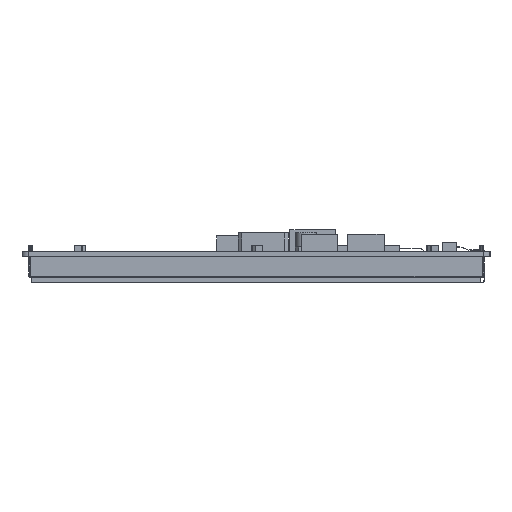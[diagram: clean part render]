
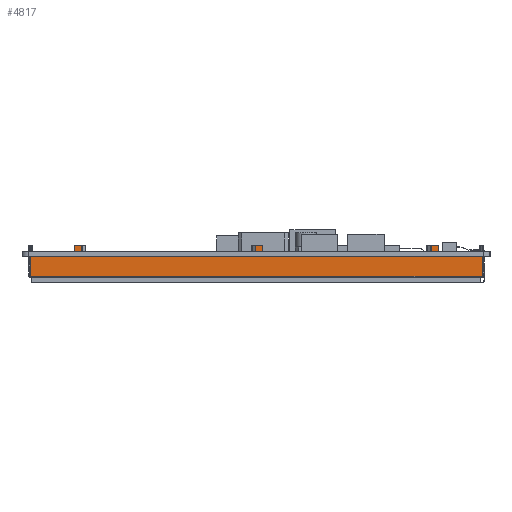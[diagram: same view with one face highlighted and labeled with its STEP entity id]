
A CAD part, left-side view. The second image highlights one B-rep face of the part: STEP entity #4817.
In plain terms, the highlighted planar face has unit normal (-1, 0, 0).
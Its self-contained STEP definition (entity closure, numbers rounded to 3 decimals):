
#4817=ADVANCED_FACE('',(#7985),#6363,.T.);
#6363=PLANE('',#38270);
#7985=FACE_OUTER_BOUND('',#9748,.T.);
#9748=EDGE_LOOP('',(#18132,#18133,#18134,#18135,#18136,#18137,#18138,#18139,
#18140,#18141,#18142,#18143,#18144,#18145,#18146,#18147,#18148,#18149,#18150,
#18151,#18152,#18153));
#18132=ORIENTED_EDGE('',*,*,#27035,.F.);
#18133=ORIENTED_EDGE('',*,*,#27036,.T.);
#18134=ORIENTED_EDGE('',*,*,#27037,.T.);
#18135=ORIENTED_EDGE('',*,*,#27038,.F.);
#18136=ORIENTED_EDGE('',*,*,#27039,.F.);
#18137=ORIENTED_EDGE('',*,*,#27040,.F.);
#18138=ORIENTED_EDGE('',*,*,#27041,.T.);
#18139=ORIENTED_EDGE('',*,*,#27042,.T.);
#18140=ORIENTED_EDGE('',*,*,#27043,.T.);
#18141=ORIENTED_EDGE('',*,*,#27032,.F.);
#18142=ORIENTED_EDGE('',*,*,#27044,.F.);
#18143=ORIENTED_EDGE('',*,*,#27045,.F.);
#18144=ORIENTED_EDGE('',*,*,#27046,.T.);
#18145=ORIENTED_EDGE('',*,*,#27047,.T.);
#18146=ORIENTED_EDGE('',*,*,#27048,.T.);
#18147=ORIENTED_EDGE('',*,*,#27028,.F.);
#18148=ORIENTED_EDGE('',*,*,#27049,.F.);
#18149=ORIENTED_EDGE('',*,*,#27050,.T.);
#18150=ORIENTED_EDGE('',*,*,#27051,.F.);
#18151=ORIENTED_EDGE('',*,*,#27052,.F.);
#18152=ORIENTED_EDGE('',*,*,#27053,.T.);
#18153=ORIENTED_EDGE('',*,*,#27026,.F.);
#22441=VERTEX_POINT('',#55878);
#22443=VERTEX_POINT('',#55882);
#22444=VERTEX_POINT('',#55886);
#22446=VERTEX_POINT('',#55889);
#22448=VERTEX_POINT('',#55895);
#22450=VERTEX_POINT('',#55898);
#22452=VERTEX_POINT('',#55904);
#22453=VERTEX_POINT('',#55906);
#22454=VERTEX_POINT('',#55908);
#22455=VERTEX_POINT('',#55910);
#22456=VERTEX_POINT('',#55912);
#22457=VERTEX_POINT('',#55914);
#22458=VERTEX_POINT('',#55916);
#22459=VERTEX_POINT('',#55918);
#22460=VERTEX_POINT('',#55921);
#22461=VERTEX_POINT('',#55923);
#22462=VERTEX_POINT('',#55925);
#22463=VERTEX_POINT('',#55927);
#22464=VERTEX_POINT('',#55930);
#22465=VERTEX_POINT('',#55932);
#22466=VERTEX_POINT('',#55934);
#22467=VERTEX_POINT('',#55936);
#27026=EDGE_CURVE('',#22443,#22441,#31543,.T.);
#27028=EDGE_CURVE('',#22444,#22446,#31545,.T.);
#27032=EDGE_CURVE('',#22448,#22450,#31549,.T.);
#27035=EDGE_CURVE('',#22452,#22443,#31552,.T.);
#27036=EDGE_CURVE('',#22452,#22453,#31553,.T.);
#27037=EDGE_CURVE('',#22453,#22454,#31554,.T.);
#27038=EDGE_CURVE('',#22455,#22454,#31555,.T.);
#27039=EDGE_CURVE('',#22456,#22455,#31556,.T.);
#27040=EDGE_CURVE('',#22457,#22456,#31557,.T.);
#27041=EDGE_CURVE('',#22457,#22458,#31558,.T.);
#27042=EDGE_CURVE('',#22458,#22459,#31559,.T.);
#27043=EDGE_CURVE('',#22459,#22450,#31560,.T.);
#27044=EDGE_CURVE('',#22460,#22448,#31561,.T.);
#27045=EDGE_CURVE('',#22461,#22460,#31562,.T.);
#27046=EDGE_CURVE('',#22461,#22462,#31563,.T.);
#27047=EDGE_CURVE('',#22462,#22463,#31564,.T.);
#27048=EDGE_CURVE('',#22463,#22446,#31565,.T.);
#27049=EDGE_CURVE('',#22464,#22444,#31566,.T.);
#27050=EDGE_CURVE('',#22464,#22465,#31567,.T.);
#27051=EDGE_CURVE('',#22466,#22465,#31568,.T.);
#27052=EDGE_CURVE('',#22467,#22466,#31569,.T.);
#27053=EDGE_CURVE('',#22467,#22441,#31570,.T.);
#31543=LINE('',#55883,#35904);
#31545=LINE('',#55888,#35906);
#31549=LINE('',#55897,#35910);
#31552=LINE('',#55903,#35913);
#31553=LINE('',#55905,#35914);
#31554=LINE('',#55907,#35915);
#31555=LINE('',#55909,#35916);
#31556=LINE('',#55911,#35917);
#31557=LINE('',#55913,#35918);
#31558=LINE('',#55915,#35919);
#31559=LINE('',#55917,#35920);
#31560=LINE('',#55919,#35921);
#31561=LINE('',#55920,#35922);
#31562=LINE('',#55922,#35923);
#31563=LINE('',#55924,#35924);
#31564=LINE('',#55926,#35925);
#31565=LINE('',#55928,#35926);
#31566=LINE('',#55929,#35927);
#31567=LINE('',#55931,#35928);
#31568=LINE('',#55933,#35929);
#31569=LINE('',#55935,#35930);
#31570=LINE('',#55937,#35931);
#35904=VECTOR('',#45798,1.);
#35906=VECTOR('',#45802,1.);
#35910=VECTOR('',#45808,1.);
#35913=VECTOR('',#45813,1.);
#35914=VECTOR('',#45814,1.);
#35915=VECTOR('',#45815,1.);
#35916=VECTOR('',#45816,1.);
#35917=VECTOR('',#45817,1.);
#35918=VECTOR('',#45818,1.);
#35919=VECTOR('',#45819,1.);
#35920=VECTOR('',#45820,1.);
#35921=VECTOR('',#45821,1.);
#35922=VECTOR('',#45822,1.);
#35923=VECTOR('',#45823,1.);
#35924=VECTOR('',#45824,1.);
#35925=VECTOR('',#45825,1.);
#35926=VECTOR('',#45826,1.);
#35927=VECTOR('',#45827,1.);
#35928=VECTOR('',#45828,1.);
#35929=VECTOR('',#45829,1.);
#35930=VECTOR('',#45830,1.);
#35931=VECTOR('',#45831,1.);
#38270=AXIS2_PLACEMENT_3D('',#55938,#45832,#45833);
#45798=DIRECTION('',(0.,-1.,0.));
#45802=DIRECTION('',(0.,-1.,0.));
#45808=DIRECTION('',(0.,-1.,0.));
#45813=DIRECTION('',(0.,0.,1.));
#45814=DIRECTION('',(0.,-1.,0.));
#45815=DIRECTION('',(0.,0.,1.));
#45816=DIRECTION('',(0.,-1.,0.));
#45817=DIRECTION('',(0.,0.,-1.));
#45818=DIRECTION('',(0.,-1.,0.));
#45819=DIRECTION('',(0.,0.,-1.));
#45820=DIRECTION('',(0.,-1.,0.));
#45821=DIRECTION('',(0.,0.,-1.));
#45822=DIRECTION('',(0.,0.,-1.));
#45823=DIRECTION('',(0.,-1.,0.));
#45824=DIRECTION('',(0.,0.,-1.));
#45825=DIRECTION('',(0.,-1.,0.));
#45826=DIRECTION('',(0.,0.,-1.));
#45827=DIRECTION('',(0.,0.,-1.));
#45828=DIRECTION('',(0.,-1.,0.));
#45829=DIRECTION('',(0.,0.,-1.));
#45830=DIRECTION('',(0.,-1.,0.));
#45831=DIRECTION('',(0.,0.,-1.));
#45832=DIRECTION('',(-1.,0.,0.));
#45833=DIRECTION('',(0.,1.,0.));
#55878=CARTESIAN_POINT('',(1013.555,86.184,-1.6));
#55882=CARTESIAN_POINT('',(1013.555,100.243,-1.6));
#55883=CARTESIAN_POINT('',(1013.555,100.243,-1.6));
#55886=CARTESIAN_POINT('',(1013.555,84.184,-1.6));
#55888=CARTESIAN_POINT('',(1013.555,100.243,-1.6));
#55889=CARTESIAN_POINT('',(1013.555,28.708,-1.6));
#55895=CARTESIAN_POINT('',(1013.555,26.708,-1.6));
#55897=CARTESIAN_POINT('',(1013.555,100.243,-1.6));
#55898=CARTESIAN_POINT('',(1013.555,-26.802,-1.6));
#55903=CARTESIAN_POINT('',(1013.555,100.243,-8.1));
#55904=CARTESIAN_POINT('',(1013.555,100.243,-7.7));
#55905=CARTESIAN_POINT('',(1013.555,-42.757,-7.7));
#55906=CARTESIAN_POINT('',(1013.555,-42.757,-7.7));
#55907=CARTESIAN_POINT('',(1013.555,-42.757,-8.1));
#55908=CARTESIAN_POINT('',(1013.555,-42.757,-1.6));
#55909=CARTESIAN_POINT('',(1013.555,100.243,-1.6));
#55910=CARTESIAN_POINT('',(1013.555,-28.802,-1.6));
#55911=CARTESIAN_POINT('',(1013.555,-28.802,2.));
#55912=CARTESIAN_POINT('',(1013.555,-28.802,2.));
#55913=CARTESIAN_POINT('',(1013.555,-26.575,2.));
#55914=CARTESIAN_POINT('',(1013.555,-26.575,2.));
#55915=CARTESIAN_POINT('',(1013.555,-26.575,2.));
#55916=CARTESIAN_POINT('',(1013.555,-26.575,0.));
#55917=CARTESIAN_POINT('',(1013.555,-26.575,0.));
#55918=CARTESIAN_POINT('',(1013.555,-26.802,0.));
#55919=CARTESIAN_POINT('',(1013.555,-26.802,0.));
#55920=CARTESIAN_POINT('',(1013.555,26.708,0.));
#55921=CARTESIAN_POINT('',(1013.555,26.708,2.));
#55922=CARTESIAN_POINT('',(1013.555,28.935,2.));
#55923=CARTESIAN_POINT('',(1013.555,28.935,2.));
#55924=CARTESIAN_POINT('',(1013.555,28.935,2.));
#55925=CARTESIAN_POINT('',(1013.555,28.935,0.));
#55926=CARTESIAN_POINT('',(1013.555,28.935,0.));
#55927=CARTESIAN_POINT('',(1013.555,28.708,0.));
#55928=CARTESIAN_POINT('',(1013.555,28.708,0.));
#55929=CARTESIAN_POINT('',(1013.555,84.184,0.));
#55930=CARTESIAN_POINT('',(1013.555,84.184,0.));
#55931=CARTESIAN_POINT('',(1013.555,86.184,0.));
#55932=CARTESIAN_POINT('',(1013.555,83.957,0.));
#55933=CARTESIAN_POINT('',(1013.555,83.957,2.));
#55934=CARTESIAN_POINT('',(1013.555,83.957,2.));
#55935=CARTESIAN_POINT('',(1013.555,86.184,2.));
#55936=CARTESIAN_POINT('',(1013.555,86.184,2.));
#55937=CARTESIAN_POINT('',(1013.555,86.184,0.));
#55938=CARTESIAN_POINT('',(1013.555,100.243,-8.1));
